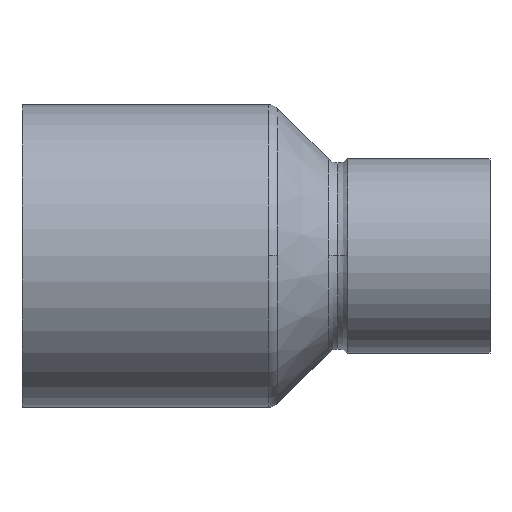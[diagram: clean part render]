
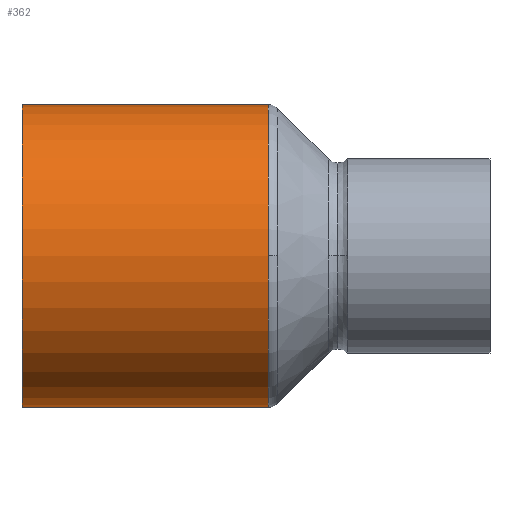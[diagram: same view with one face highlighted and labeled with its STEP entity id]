
A CAD part, top view. The second image highlights one B-rep face of the part: STEP entity #362.
In plain terms, the highlighted cylindrical face has radius 11 mm (diameter 22 mm), a partial arc.
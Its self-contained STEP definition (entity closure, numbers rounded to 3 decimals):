
#312=CARTESIAN_POINT('',(8.937,0.0,0.0));
#313=DIRECTION('',(1.0,0.0,0.0));
#314=DIRECTION('',(0.0,1.0,0.0));
#315=AXIS2_PLACEMENT_3D('',#312,#313,#314);
#316=CYLINDRICAL_SURFACE('',#315,11.0);
#317=CARTESIAN_POINT('',(0.,11.0,0.0));
#318=VERTEX_POINT('',#317);
#319=CARTESIAN_POINT('',(17.873,11.0,0.0));
#320=VERTEX_POINT('',#319);
#321=CARTESIAN_POINT('',(0.,11.0,0.0));
#322=DIRECTION('',(1.0,0.0,0.0));
#323=VECTOR('',#322,17.873);
#324=LINE('',#321,#323);
#325=EDGE_CURVE('',#318,#320,#324,.T.);
#326=ORIENTED_EDGE('',*,*,#325,.F.);
#327=CARTESIAN_POINT('',(0.0,-11.0,0.));
#328=VERTEX_POINT('',#327);
#329=CARTESIAN_POINT('',(0.,0.0,0.0));
#330=DIRECTION('',(1.0,0.0,0.0));
#331=DIRECTION('',(0.0,1.0,0.0));
#332=AXIS2_PLACEMENT_3D('',#329,#330,#331);
#333=CIRCLE('',#332,11.0);
#334=EDGE_CURVE('',#318,#328,#333,.T.);
#335=ORIENTED_EDGE('',*,*,#334,.T.);
#336=CARTESIAN_POINT('',(17.873,-11.0,0.));
#337=VERTEX_POINT('',#336);
#338=CARTESIAN_POINT('',(17.873,-11.0,0.));
#339=DIRECTION('',(-1.0,0.0,0.0));
#340=VECTOR('',#339,17.873);
#341=LINE('',#338,#340);
#342=EDGE_CURVE('',#337,#328,#341,.T.);
#343=ORIENTED_EDGE('',*,*,#342,.F.);
#344=CARTESIAN_POINT('',(17.873,0.,11.0));
#345=VERTEX_POINT('',#344);
#346=CARTESIAN_POINT('',(17.873,0.0,0.0));
#347=DIRECTION('',(1.0,0.0,0.0));
#348=DIRECTION('',(0.0,1.0,0.0));
#349=AXIS2_PLACEMENT_3D('',#346,#347,#348);
#350=CIRCLE('',#349,11.0);
#351=EDGE_CURVE('',#345,#337,#350,.T.);
#352=ORIENTED_EDGE('',*,*,#351,.F.);
#353=CARTESIAN_POINT('',(17.873,0.0,0.0));
#354=DIRECTION('',(1.0,0.0,0.0));
#355=DIRECTION('',(0.0,1.0,0.0));
#356=AXIS2_PLACEMENT_3D('',#353,#354,#355);
#357=CIRCLE('',#356,11.0);
#358=EDGE_CURVE('',#320,#345,#357,.T.);
#359=ORIENTED_EDGE('',*,*,#358,.F.);
#360=EDGE_LOOP('',(#326,#335,#343,#352,#359));
#361=FACE_OUTER_BOUND('',#360,.T.);
#362=ADVANCED_FACE('',(#361),#316,.T.);
